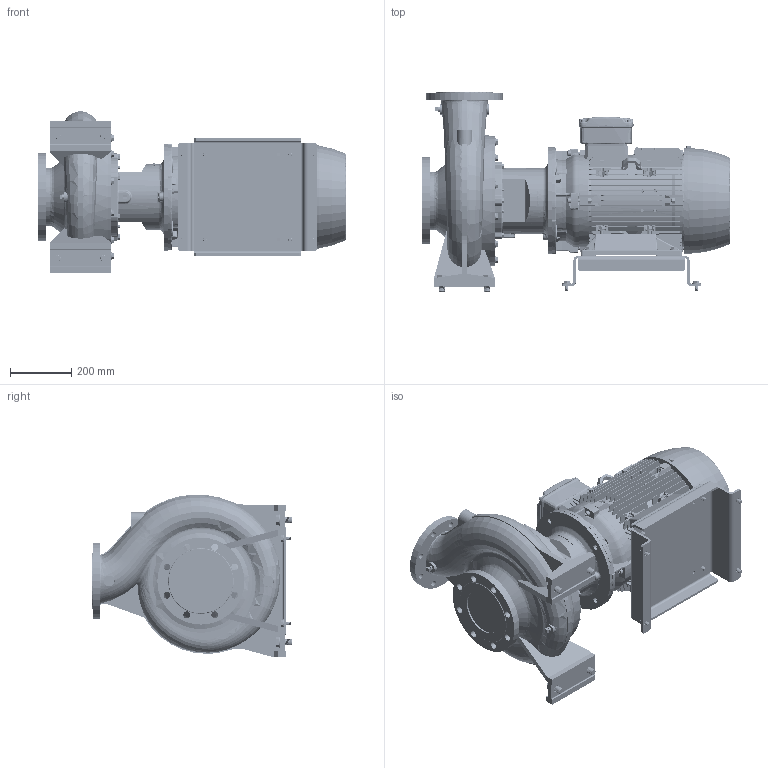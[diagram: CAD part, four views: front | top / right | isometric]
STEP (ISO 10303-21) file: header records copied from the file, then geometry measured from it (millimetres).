
FILE_DESCRIPTION (( 'STEP AP214' ), '1' );
FILE_NAME ('GSD4 125-315_18.5 & 22_(180ML)_W21.STEP', '2026-07-01T04:37:03', ( '' ), ( '' ), 'SwSTEP 2.0', 'SolidWorks 2024', '' );
FILE_SCHEMA (( 'AUTOMOTIVE_DESIGN' ));
Length unit declared in the file: millimetre
Products named in the file (12): Parametric Flat Washer_M12; Parametric bolt and washer_SFT-A297B; Parametric bolt_SFT-A403B; Parametric Flat Washer_M20; 125-315-180M_L_ﾃﾞﾌｫﾙﾄ; Parametric bolt_SFT-A305B; Parametric bolt_SFT-A297B; GSD4 125-315_18.5 & 22_(180ML)_W21; Parametric bolt and washer_SFT-A305B; 180M_L ALIE3_W21T_B35; CGS11-5264; Parametric bolt and washer_SFT-A403B
Assembly tree (21 placements, depth 3):
  GSD4 125-315_18.5 & 22_(180ML)_W21
    125-315-180M_L_ﾃﾞﾌｫﾙﾄ
    CGS11-5264
    Parametric bolt and washer_SFT-A403B  x4
      Parametric bolt_SFT-A403B
      Parametric Flat Washer_M20
    Parametric bolt and washer_SFT-A297B  x4
      Parametric bolt_SFT-A297B
      Parametric Flat Washer_M12
    Parametric bolt and washer_SFT-A305B  x4
      Parametric bolt_SFT-A305B
      Parametric Flat Washer_M12
    180M_L ALIE3_W21T_B35
Bounding box: 1009.8 x 652 x 532.93 mm (x, y, z)
Volume: 51088646.8 mm3; surface area: 4433708.8 mm2
Topology: 57 solids, 58 shells, 6634 faces, 17165 edges, 11105 vertices
Faces by surface type: plane 3907, cylinder 1341, cone 660, bspline 471, torus 239, sphere 16
Entity records: 243191 total; most frequent: CARTESIAN_POINT 101568, ORIENTED_EDGE 31214, DIRECTION 26200, EDGE_CURVE 15607, VERTEX_POINT 10100, LINE 9800, VECTOR 9800, AXIS2_PLACEMENT_3D 8200
